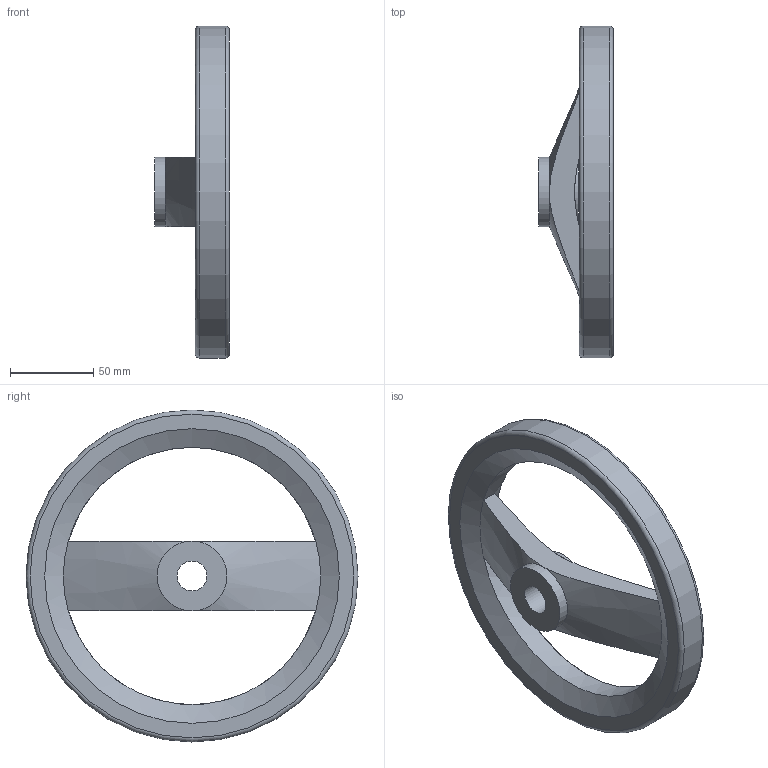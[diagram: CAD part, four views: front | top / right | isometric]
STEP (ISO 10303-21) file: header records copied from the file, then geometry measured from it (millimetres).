
FILE_DESCRIPTION( ( 'STEP AP203' ), '1' );
FILE_NAME( 'C:/Temp/Ganter_Step_05_03_2020/data/1_3/gn_324/gn_324_b/gn_324_b_a/Handwheel, matt black GN 324-200-B18-A.stp', '2020-03-05T10:32:54', ( 'License CC BY-ND 4.0' ), ( 'CADENAS' ), ' ', 'PARTsolutions', ' ' );
FILE_SCHEMA( ( 'CONFIG_CONTROL_DESIGN' ) );
Length unit declared in the file: millimetre
Products named in the file (1): _Handwheel, matt black GN 324-200-B18-A
Bounding box: 45 x 200 x 200 mm (x, y, z)
Volume: 328138.2 mm3; surface area: 62774 mm2
Topology: 1 solids, 1 shells, 19 faces, 43 edges, 24 vertices
Faces by surface type: plane 6, cone 6, cylinder 5, torus 2
Full cylindrical faces by diameter (mm): 18 x1, 42 x2, 155 x1, 200 x1
Entity records: 668 total; most frequent: CARTESIAN_POINT 232, DIRECTION 86, ORIENTED_EDGE 66, AXIS2_PLACEMENT_3D 41, EDGE_CURVE 33, EDGE_LOOP 32, FACE_OUTER_BOUND 26, VERTEX_POINT 23
